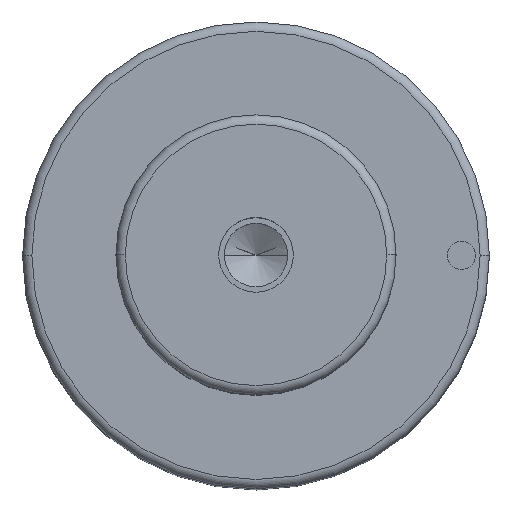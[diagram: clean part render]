
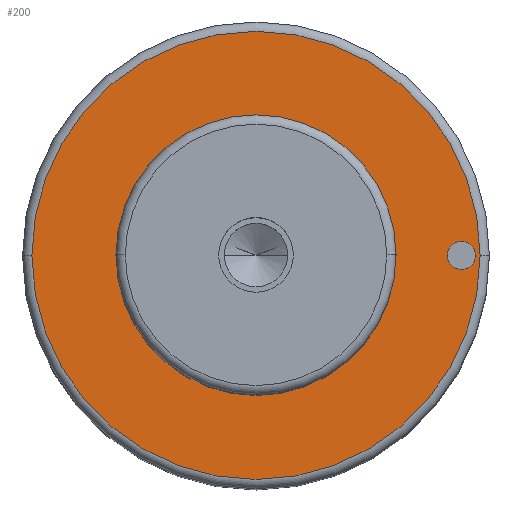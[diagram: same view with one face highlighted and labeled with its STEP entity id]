
A CAD part, top view. The second image highlights one B-rep face of the part: STEP entity #200.
In plain terms, the highlighted planar face has unit normal (0, 0, 1).
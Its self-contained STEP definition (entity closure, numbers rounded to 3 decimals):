
#99=PLANE('',#596);
#107=FACE_BOUND('',#265,.T.);
#108=FACE_BOUND('',#266,.T.);
#109=FACE_BOUND('',#267,.T.);
#200=ADVANCED_FACE('',(#107,#108,#109),#99,.T.);
#265=EDGE_LOOP('',(#359,#360));
#266=EDGE_LOOP('',(#361,#362));
#267=EDGE_LOOP('',(#363,#364));
#359=ORIENTED_EDGE('',*,*,#460,.F.);
#360=ORIENTED_EDGE('',*,*,#461,.F.);
#361=ORIENTED_EDGE('',*,*,#485,.F.);
#362=ORIENTED_EDGE('',*,*,#486,.F.);
#363=ORIENTED_EDGE('',*,*,#456,.T.);
#364=ORIENTED_EDGE('',*,*,#454,.T.);
#411=VERTEX_POINT('',#808);
#412=VERTEX_POINT('',#810);
#413=VERTEX_POINT('',#816);
#416=VERTEX_POINT('',#821);
#430=VERTEX_POINT('',#875);
#431=VERTEX_POINT('',#876);
#454=EDGE_CURVE('',#412,#411,#513,.T.);
#456=EDGE_CURVE('',#411,#412,#514,.T.);
#460=EDGE_CURVE('',#416,#413,#518,.T.);
#461=EDGE_CURVE('',#413,#416,#519,.T.);
#485=EDGE_CURVE('',#430,#431,#533,.T.);
#486=EDGE_CURVE('',#431,#430,#534,.T.);
#513=CIRCLE('',#558,15.);
#514=CIRCLE('',#560,15.);
#518=CIRCLE('',#565,24.);
#519=CIRCLE('',#567,24.);
#533=CIRCLE('',#594,1.5);
#534=CIRCLE('',#595,1.5);
#558=AXIS2_PLACEMENT_3D('',#809,#647,#648);
#560=AXIS2_PLACEMENT_3D('',#813,#652,#653);
#565=AXIS2_PLACEMENT_3D('',#822,#662,#663);
#567=AXIS2_PLACEMENT_3D('',#824,#666,#667);
#594=AXIS2_PLACEMENT_3D('',#874,#730,#731);
#595=AXIS2_PLACEMENT_3D('',#877,#732,#733);
#596=AXIS2_PLACEMENT_3D('',#878,#734,#735);
#647=DIRECTION('',(0.,0.,-1.));
#648=DIRECTION('',(0.,1.,0.));
#652=DIRECTION('',(0.,0.,-1.));
#653=DIRECTION('',(0.,-1.,0.));
#662=DIRECTION('',(0.,0.,-1.));
#663=DIRECTION('',(0.,1.,0.));
#666=DIRECTION('',(0.,0.,-1.));
#667=DIRECTION('',(0.,-1.,0.));
#730=DIRECTION('',(0.,0.,1.));
#731=DIRECTION('',(0.,1.,0.));
#732=DIRECTION('',(0.,0.,1.));
#733=DIRECTION('',(0.,-1.,0.));
#734=DIRECTION('',(0.,0.,1.));
#735=DIRECTION('',(0.,-1.,0.));
#808=CARTESIAN_POINT('',(-15.,0.,72.));
#809=CARTESIAN_POINT('',(0.,0.,72.));
#810=CARTESIAN_POINT('',(15.,0.,72.));
#813=CARTESIAN_POINT('',(0.,0.,72.));
#816=CARTESIAN_POINT('',(-24.,0.,72.));
#821=CARTESIAN_POINT('',(24.,0.,72.));
#822=CARTESIAN_POINT('',(0.,0.,72.));
#824=CARTESIAN_POINT('',(0.,0.,72.));
#874=CARTESIAN_POINT('',(22.,0.,72.));
#875=CARTESIAN_POINT('',(20.5,0.,72.));
#876=CARTESIAN_POINT('',(23.5,0.,72.));
#877=CARTESIAN_POINT('',(22.,0.,72.));
#878=CARTESIAN_POINT('',(0.,0.,72.));
